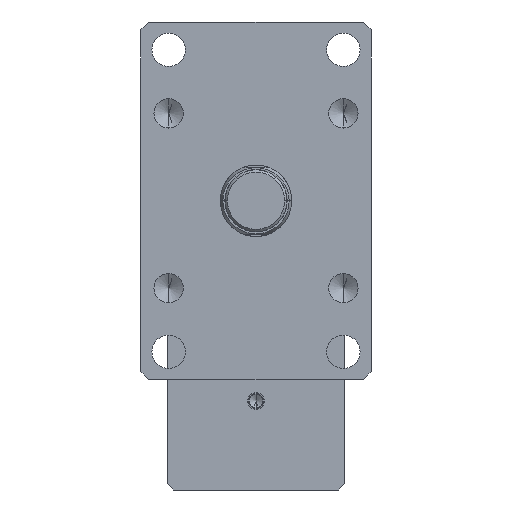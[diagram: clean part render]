
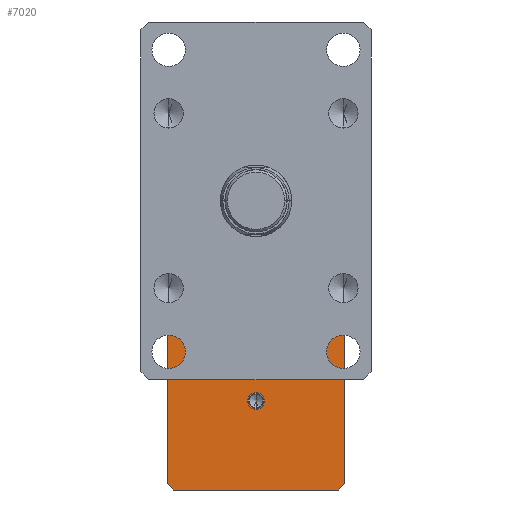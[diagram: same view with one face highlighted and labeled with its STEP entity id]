
A CAD part, left-side view. The second image highlights one B-rep face of the part: STEP entity #7020.
In plain terms, the highlighted planar face has unit normal (-1, 0, 0).
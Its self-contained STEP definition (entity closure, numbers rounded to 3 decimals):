
#66 = VECTOR ( 'NONE', #5399, 1000. ) ;
#223 = EDGE_CURVE ( 'NONE', #8545, #5069, #9776, .T. ) ;
#351 = VERTEX_POINT ( 'NONE', #9080 ) ;
#389 = DIRECTION ( 'NONE',  ( 0., 0., 1. ) ) ;
#444 = EDGE_CURVE ( 'NONE', #606, #9497, #6220, .T. ) ;
#542 = VECTOR ( 'NONE', #7122, 1000. ) ;
#575 = CIRCLE ( 'NONE', #3518, 5.143 ) ;
#606 = VERTEX_POINT ( 'NONE', #8025 ) ;
#629 = EDGE_CURVE ( 'NONE', #5538, #6162, #3474, .T. ) ;
#638 = CARTESIAN_POINT ( 'NONE',  ( 375., 0., -126. ) ) ;
#651 = EDGE_CURVE ( 'NONE', #10538, #5069, #3159, .T. ) ;
#757 = ORIENTED_EDGE ( 'NONE', *, *, #629, .T. ) ;
#1287 = CARTESIAN_POINT ( 'NONE',  ( 375., 56., -74. ) ) ;
#1493 = VECTOR ( 'NONE', #2179, 1000. ) ;
#1539 = DIRECTION ( 'NONE',  ( -1., 0., 0. ) ) ;
#1633 = DIRECTION ( 'NONE',  ( 0., 0., 1. ) ) ;
#1756 = CARTESIAN_POINT ( 'NONE',  ( 375., 52., -70. ) ) ;
#1920 = VECTOR ( 'NONE', #389, 1000. ) ;
#2125 = FACE_BOUND ( 'NONE', #12472, .T. ) ;
#2158 = VERTEX_POINT ( 'NONE', #7901 ) ;
#2179 = DIRECTION ( 'NONE',  ( 0., 0., 1. ) ) ;
#2180 = ORIENTED_EDGE ( 'NONE', *, *, #11142, .F. ) ;
#2398 = LINE ( 'NONE', #7504, #4975 ) ;
#2828 = DIRECTION ( 'NONE',  ( 0., -0.707, -0.707 ) ) ;
#2986 = CARTESIAN_POINT ( 'NONE',  ( 375., -56., -182. ) ) ;
#3159 = LINE ( 'NONE', #8122, #542 ) ;
#3187 = CARTESIAN_POINT ( 'NONE',  ( 375., -56., -74. ) ) ;
#3474 = LINE ( 'NONE', #3187, #4060 ) ;
#3504 = ORIENTED_EDGE ( 'NONE', *, *, #651, .T. ) ;
#3518 = AXIS2_PLACEMENT_3D ( 'NONE', #7417, #1539, #8409 ) ;
#3805 = EDGE_CURVE ( 'NONE', #7048, #2158, #11895, .T. ) ;
#3966 = PLANE ( 'NONE',  #8327 ) ;
#4009 = CARTESIAN_POINT ( 'NONE',  ( 375., 0., -120.857 ) ) ;
#4060 = VECTOR ( 'NONE', #10065, 1000. ) ;
#4269 = ORIENTED_EDGE ( 'NONE', *, *, #8632, .T. ) ;
#4291 = EDGE_LOOP ( 'NONE', ( #7103, #757, #4269, #3504, #10173, #8803, #2180, #4576 ) ) ;
#4419 = CARTESIAN_POINT ( 'NONE',  ( 375., -52., -182. ) ) ;
#4576 = ORIENTED_EDGE ( 'NONE', *, *, #444, .T. ) ;
#4585 = CARTESIAN_POINT ( 'NONE',  ( 375., -56., -74. ) ) ;
#4934 = DIRECTION ( 'NONE',  ( 0., 0., -1. ) ) ;
#4975 = VECTOR ( 'NONE', #8492, 1000. ) ;
#4982 = EDGE_CURVE ( 'NONE', #8545, #351, #6715, .T. ) ;
#5037 = CARTESIAN_POINT ( 'NONE',  ( 375., -52., -70. ) ) ;
#5069 = VERTEX_POINT ( 'NONE', #1287 ) ;
#5399 = DIRECTION ( 'NONE',  ( 0., -0.707, 0.707 ) ) ;
#5538 = VERTEX_POINT ( 'NONE', #4585 ) ;
#6099 = VECTOR ( 'NONE', #2828, 1000. ) ;
#6162 = VERTEX_POINT ( 'NONE', #5037 ) ;
#6220 = LINE ( 'NONE', #4419, #66 ) ;
#6715 = LINE ( 'NONE', #7725, #6099 ) ;
#7020 = ADVANCED_FACE ( 'NONE', ( #2125, #9663 ), #3966, .F. ) ;
#7048 = VERTEX_POINT ( 'NONE', #4009 ) ;
#7103 = ORIENTED_EDGE ( 'NONE', *, *, #9265, .T. ) ;
#7104 = AXIS2_PLACEMENT_3D ( 'NONE', #638, #7516, #1633 ) ;
#7122 = DIRECTION ( 'NONE',  ( 0., 0.707, -0.707 ) ) ;
#7183 = VECTOR ( 'NONE', #7831, 1000. ) ;
#7322 = CARTESIAN_POINT ( 'NONE',  ( 375., 56., -178. ) ) ;
#7417 = CARTESIAN_POINT ( 'NONE',  ( 375., 0., -126. ) ) ;
#7504 = CARTESIAN_POINT ( 'NONE',  ( 375., -56., -70. ) ) ;
#7516 = DIRECTION ( 'NONE',  ( -1., 0., 0. ) ) ;
#7680 = EDGE_CURVE ( 'NONE', #2158, #7048, #575, .T. ) ;
#7725 = CARTESIAN_POINT ( 'NONE',  ( 375., 52., -182. ) ) ;
#7831 = DIRECTION ( 'NONE',  ( 0., 1., 0. ) ) ;
#7901 = CARTESIAN_POINT ( 'NONE',  ( 375., 0., -131.143 ) ) ;
#8025 = CARTESIAN_POINT ( 'NONE',  ( 375., -52., -182. ) ) ;
#8122 = CARTESIAN_POINT ( 'NONE',  ( 375., 56., -74. ) ) ;
#8327 = AXIS2_PLACEMENT_3D ( 'NONE', #2986, #10878, #4934 ) ;
#8409 = DIRECTION ( 'NONE',  ( 0., 0., 1. ) ) ;
#8413 = LINE ( 'NONE', #11009, #1493 ) ;
#8492 = DIRECTION ( 'NONE',  ( 0., 1., 0. ) ) ;
#8545 = VERTEX_POINT ( 'NONE', #7322 ) ;
#8632 = EDGE_CURVE ( 'NONE', #6162, #10538, #2398, .T. ) ;
#8803 = ORIENTED_EDGE ( 'NONE', *, *, #4982, .T. ) ;
#9080 = CARTESIAN_POINT ( 'NONE',  ( 375., 52., -182. ) ) ;
#9265 = EDGE_CURVE ( 'NONE', #9497, #5538, #8413, .T. ) ;
#9482 = CARTESIAN_POINT ( 'NONE',  ( 375., -56., -178. ) ) ;
#9497 = VERTEX_POINT ( 'NONE', #9482 ) ;
#9619 = ORIENTED_EDGE ( 'NONE', *, *, #7680, .F. ) ;
#9663 = FACE_OUTER_BOUND ( 'NONE', #4291, .T. ) ;
#9776 = LINE ( 'NONE', #11248, #1920 ) ;
#10065 = DIRECTION ( 'NONE',  ( 0., 0.707, 0.707 ) ) ;
#10173 = ORIENTED_EDGE ( 'NONE', *, *, #223, .F. ) ;
#10538 = VERTEX_POINT ( 'NONE', #1756 ) ;
#10656 = CARTESIAN_POINT ( 'NONE',  ( 375., -56., -182. ) ) ;
#10878 = DIRECTION ( 'NONE',  ( 1., 0., 0. ) ) ;
#11009 = CARTESIAN_POINT ( 'NONE',  ( 375., -56., -182. ) ) ;
#11142 = EDGE_CURVE ( 'NONE', #606, #351, #12432, .T. ) ;
#11248 = CARTESIAN_POINT ( 'NONE',  ( 375., 56., -182. ) ) ;
#11392 = ORIENTED_EDGE ( 'NONE', *, *, #3805, .F. ) ;
#11895 = CIRCLE ( 'NONE', #7104, 5.143 ) ;
#12432 = LINE ( 'NONE', #10656, #7183 ) ;
#12472 = EDGE_LOOP ( 'NONE', ( #11392, #9619 ) ) ;
